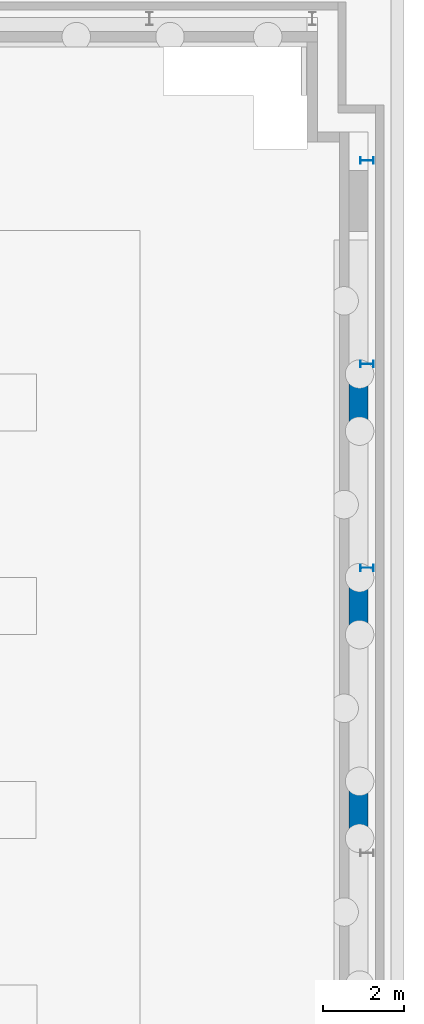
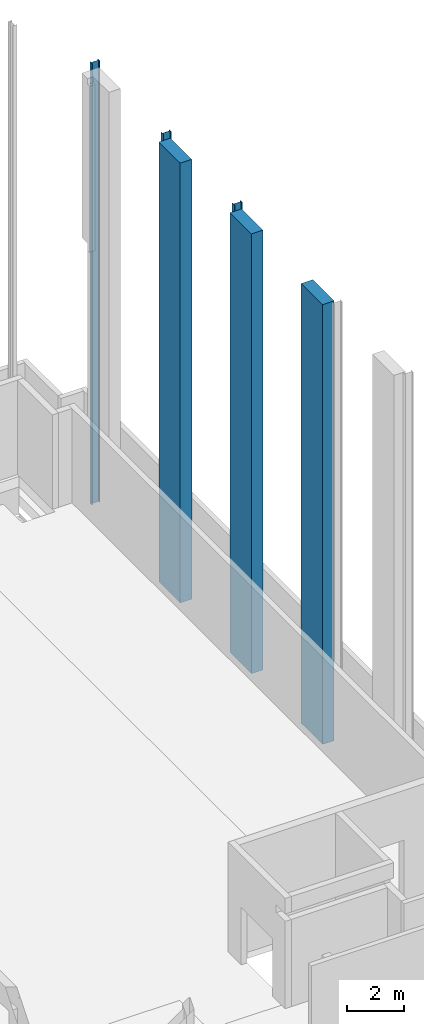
# One storey, part 9 of 34: 6 columns.
"""IFC2X3 building model written with IfcOpenShell, lengths in millimetres."""

import ifcopenshell
import ifcopenshell.guid

model = None  # the IFC model being written
_history = None  # IfcOwnerHistory: only IFC2X3 demands one
_inside = {}  # id of a spatial element -> (the spatial element, [elements in it])
_under = {}  # id of a project, library or spatial element -> (it, [spatial elements below it])
_declared = {}  # id of a project -> (the project, [libraries it declares])
_typed = {}  # id of a type object -> (the type object, [elements of that type])
_made_of = {}  # id of a material, layer set ... -> (it, [elements and type objects made of it])


def new_model(schema):
    """Start an empty IFC model of exactly this schema.

    Asked for "IFC4X3", IfcOpenShell would pick the latest addendum, in which some entities
    have other attributes; the version numbers below select the first issue.
    IFC2X3 requires an IfcOwnerHistory on every rooted entity: one is made here for all.
    """
    global model, _history
    if schema == "IFC4X3":
        model = ifcopenshell.file(schema_version=(4, 3, 0, 0))
    else:
        model = ifcopenshell.file(schema=schema)
    _inside.clear()
    _under.clear()
    _declared.clear()
    _typed.clear()
    _made_of.clear()
    _history = None
    if model.schema == "IFC2X3":
        org = make("IfcOrganization", Name="unknown")
        user = make(
            "IfcPersonAndOrganization",
            ThePerson=make("IfcPerson", FamilyName="unknown"),
            TheOrganization=org,
        )
        app = make(
            "IfcApplication",
            ApplicationDeveloper=org,
            Version="unknown",
            ApplicationFullName="unknown",
            ApplicationIdentifier="unknown",
        )
        _history = make(
            "IfcOwnerHistory",
            OwningUser=user,
            OwningApplication=app,
            ChangeAction="ADDED",
            CreationDate=0,
        )
    return model


def make(cls, **values):
    """One entity of the class cls with the attributes given. An attribute that is None is left unset."""
    return model.create_entity(
        cls, **{name: value for name, value in values.items() if value is not None}
    )


def entity(cls, *values):
    """Any entity or typed value of the class cls, its attributes in the order of the schema. None: left unset."""
    e = model.create_entity(cls)
    for i, value in enumerate(values):
        if value is not None:
            e[i] = value
    return e


def rooted(cls, **values):
    """An entity with a GlobalId (a new one), such as an element, a storey or a relation."""
    return make(cls, GlobalId=ifcopenshell.guid.new(), OwnerHistory=_history, **values)


def si_unit(unit_type, name, prefix=None):
    """IfcSIUnit, for example si_unit("LENGTHUNIT", "METRE", prefix="MILLI")."""
    return make("IfcSIUnit", UnitType=unit_type, Prefix=prefix, Name=name)


def converted_unit(unit_type, name, factor, base, dimensions=None, offset=None):
    """IfcConversionBasedUnit, such as the inch: factor (a typed value) times the base unit."""
    return make(
        "IfcConversionBasedUnit"
        if offset is None
        else "IfcConversionBasedUnitWithOffset",
        ConversionOffset=offset,
        Dimensions=None
        if dimensions is None
        else entity("IfcDimensionalExponents", *dimensions),
        UnitType=unit_type,
        Name=name,
        ConversionFactor=make(
            "IfcMeasureWithUnit", ValueComponent=factor, UnitComponent=base
        ),
    )


def derived_unit(unit_type, elements):
    """IfcDerivedUnit: a product of units, each with its exponent."""
    return make(
        "IfcDerivedUnit",
        Elements=[
            make("IfcDerivedUnitElement", Unit=unit, Exponent=power)
            for unit, power in elements
        ],
        UnitType=unit_type,
    )


def assignment(units):
    """IfcUnitAssignment: the units of a project."""
    return None if units is None else make("IfcUnitAssignment", Units=units)


def point(xyz):
    """IfcCartesianPoint."""
    return None if xyz is None else make("IfcCartesianPoint", Coordinates=xyz)


def direction(xyz):
    """IfcDirection."""
    return None if xyz is None else make("IfcDirection", DirectionRatios=xyz)


def frame(location, z_axis=None, x_axis=None):
    """IfcAxis2Placement3D, a coordinate frame: its origin and axes. An axis left out is left unset."""
    return make(
        "IfcAxis2Placement3D",
        Location=point(location),
        Axis=direction(z_axis),
        RefDirection=direction(x_axis),
    )


def frame_2d(location, x_axis=None):
    """IfcAxis2Placement2D, a coordinate frame in the plane: its origin and x axis."""
    return make(
        "IfcAxis2Placement2D", Location=point(location), RefDirection=direction(x_axis)
    )


def origin():
    """The frame at (0, 0, 0) with its axes left unset."""
    return frame((0.0, 0.0, 0.0))


def place(relative_to, where):
    """IfcLocalPlacement: puts the frame where relative to a parent placement (None: the world)."""
    return make(
        "IfcLocalPlacement", PlacementRelTo=relative_to, RelativePlacement=where
    )


def context(
    kind, dimensions, precision=None, world=None, true_north=None, identifier=None
):
    """IfcGeometricRepresentationContext, for example the 3D "Model" context."""
    return make(
        "IfcGeometricRepresentationContext",
        ContextIdentifier=identifier,
        ContextType=kind,
        CoordinateSpaceDimension=dimensions,
        Precision=precision,
        WorldCoordinateSystem=world,
        TrueNorth=true_north,
    )


def subcontext(parent, identifier, kind, view, scale=None):
    """IfcGeometricRepresentationSubContext, for example "Body" below "Model"."""
    return make(
        "IfcGeometricRepresentationSubContext",
        ContextIdentifier=identifier,
        ContextType=kind,
        ParentContext=parent,
        TargetScale=scale,
        TargetView=view,
    )


def project(units=None, contexts=None):
    """IfcProject with its units and contexts."""
    return rooted(
        "IfcProject",
        Name="project",
        RepresentationContexts=contexts,
        UnitsInContext=assignment(units),
    )


def spatial(cls, under=None, at=None, **own):
    """A site, building, storey or space (cls), placed at a placement, below another one or the project."""
    s = rooted(cls, ObjectPlacement=at, **own)
    if under is not None:
        _under.setdefault(under.id(), (under, []))[1].append(s)
    return s


def profile(cls, at=None, kind="AREA", **sizes):
    """A parametric profile (cls). Its sizes go by their IFC names, for example OverallWidth=200.0."""
    return make(cls, ProfileType=kind, Position=at, **sizes)


def rectangle(**sizes):
    """IfcRectangleProfileDef."""
    return profile("IfcRectangleProfileDef", **sizes)


def i_section(**sizes):
    """IfcIShapeProfileDef."""
    return profile("IfcIShapeProfileDef", **sizes)


def extrude(swept, where, along, depth):
    """IfcExtrudedAreaSolid: the profile swept, set in the frame where, extruded along a direction by depth."""
    return make(
        "IfcExtrudedAreaSolid",
        SweptArea=swept,
        Position=where,
        ExtrudedDirection=direction(along),
        Depth=depth,
    )


def shape(context_of_items, identifier, shape_type, items):
    """IfcShapeRepresentation: the items that make up one representation, for example the "Body"."""
    return make(
        "IfcShapeRepresentation",
        ContextOfItems=context_of_items,
        RepresentationIdentifier=identifier,
        RepresentationType=shape_type,
        Items=items,
    )


def source(mapping_origin, context_of_items, identifier, shape_type, items):
    """IfcRepresentationMap: a shape defined once, which mapped items show again and again."""
    return make(
        "IfcRepresentationMap",
        MappingOrigin=mapping_origin,
        MappedRepresentation=shape(context_of_items, identifier, shape_type, items),
    )


def transform(
    local_origin,
    x_axis=None,
    y_axis=None,
    z_axis=None,
    scale=None,
    scale2=None,
    scale3=None,
    uniform=True,
):
    """IfcCartesianTransformationOperator3D, or its non-uniform kind. x_axis, y_axis, z_axis: its Axis1, 2, 3."""
    if uniform:
        return make(
            "IfcCartesianTransformationOperator3D",
            Axis1=direction(x_axis),
            Axis2=direction(y_axis),
            LocalOrigin=point(local_origin),
            Scale=scale,
            Axis3=direction(z_axis),
        )
    return make(
        "IfcCartesianTransformationOperator3DnonUniform",
        Axis1=direction(x_axis),
        Axis2=direction(y_axis),
        LocalOrigin=point(local_origin),
        Scale=scale,
        Axis3=direction(z_axis),
        Scale2=scale2,
        Scale3=scale3,
    )


def mapped(mapping_source, mapping_target):
    """IfcMappedItem: shows the shape of a source again, moved by a transform."""
    return make(
        "IfcMappedItem", MappingSource=mapping_source, MappingTarget=mapping_target
    )


def material(Name=None, Category=None):
    """IfcMaterial."""
    return make("IfcMaterial", Name=Name, Category=Category)


def made_of(thing, what):
    """Note that an element or type object is made of a material, layer set ...; save() writes the relation."""
    if what is not None:
        _made_of.setdefault(what.id(), (what, []))[1].append(thing)
    return thing


def type_object(cls, material=None, **own):
    """A type object (cls), such as IfcWallType, which elements share."""
    return made_of(rooted(cls, **own), material)


def type_shapes(of_type, sources):
    """Give a type object the sources (RepresentationMaps) that its elements show as mapped items."""
    of_type.RepresentationMaps = sources


def element(
    cls,
    number,
    at=None,
    inside=None,
    cuts=None,
    type_object=None,
    material=None,
    context=None,
    identifier="Body",
    shape_type=None,
    held_by="IfcProductDefinitionShape",
    body=None,
    shapes=None,
    **own,
):
    """One element of the class cls, such as IfcWall. Its Tag is "e" and its number.

    at: its placement. inside: the storey or other place that contains it. cuts: it is an
    opening in that element (IfcRelVoidsElement). A single representation is given by context,
    identifier, shape_type and body (its items); several are given by shapes. held_by: the class
    of the entity that holds the representations. save() writes the other relations.
    """
    e = rooted(cls, Tag="e%d" % number, ObjectPlacement=at, **own)
    if body is not None:
        shapes = [shape(context, identifier, shape_type, body)]
    if shapes is not None:
        e.Representation = make(held_by, Representations=shapes)
    if inside is not None:
        _inside.setdefault(inside.id(), (inside, []))[1].append(e)
    if cuts is not None:
        rooted(
            "IfcRelVoidsElement", RelatingBuildingElement=cuts, RelatedOpeningElement=e
        )
    if type_object is not None:
        _typed.setdefault(type_object.id(), (type_object, []))[1].append(e)
    return made_of(e, material)


def aggregate(whole, parts):
    """IfcRelAggregates: a whole, such as a stair, and the parts it consists of."""
    return rooted("IfcRelAggregates", RelatingObject=whole, RelatedObjects=parts)


def save(model, path):
    """Write the relations noted so far, then the file.

    IfcRelAggregates (storeys below a building ...), IfcRelContainedInSpatialStructure (elements
    in a storey), IfcRelDefinesByType, IfcRelAssociatesMaterial and IfcRelDeclares: one each for
    every whole, place, type object, material and project.
    """
    for whole, parts in _under.values():
        aggregate(whole, parts)
    for where, things in _inside.values():
        rooted(
            "IfcRelContainedInSpatialStructure",
            RelatedElements=things,
            RelatingStructure=where,
        )
    for kind, things in _typed.values():
        rooted("IfcRelDefinesByType", RelatedObjects=things, RelatingType=kind)
    for what, things in _made_of.values():
        rooted("IfcRelAssociatesMaterial", RelatedObjects=things, RelatingMaterial=what)
    for by, libraries in _declared.values():
        rooted("IfcRelDeclares", RelatingContext=by, RelatedDefinitions=libraries)
    model.write(path)


model = new_model("IFC2X3")

# Units and contexts
model_context = context("Model", 3, precision=0.01, world=origin(), true_north=direction((6.12303176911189e-17, 1.0)))
body_context = subcontext(model_context, "Body", "Model", "MODEL_VIEW")
ifc_project = project(units=[si_unit("LENGTHUNIT", "METRE", prefix="MILLI"), si_unit("AREAUNIT", "SQUARE_METRE", prefix="MILLI"), si_unit("VOLUMEUNIT", "CUBIC_METRE"), converted_unit("PLANEANGLEUNIT", "DEGREE", entity("IfcRatioMeasure", 0.0174532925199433), si_unit("PLANEANGLEUNIT", "RADIAN"), dimensions=[0, 0, 0, 0, 0, 0, 0]), si_unit("MASSUNIT", "GRAM", prefix="KILO"), derived_unit("MASSDENSITYUNIT", [(si_unit("MASSUNIT", "GRAM", prefix="KILO"), 1), (si_unit("LENGTHUNIT", "METRE"), -3)]), derived_unit("MOMENTOFINERTIAUNIT", [(si_unit("LENGTHUNIT", "METRE"), 4)]), si_unit("TIMEUNIT", "SECOND"), si_unit("FREQUENCYUNIT", "HERTZ"), si_unit("THERMODYNAMICTEMPERATUREUNIT", "DEGREE_CELSIUS"), derived_unit("THERMALTRANSMITTANCEUNIT", [(si_unit("MASSUNIT", "GRAM", prefix="KILO"), 1), (si_unit("THERMODYNAMICTEMPERATUREUNIT", "KELVIN"), -1), (si_unit("TIMEUNIT", "SECOND"), -3)]), derived_unit("VOLUMETRICFLOWRATEUNIT", [(si_unit("LENGTHUNIT", "METRE"), 3), (si_unit("TIMEUNIT", "SECOND"), -1)]), si_unit("ELECTRICCURRENTUNIT", "AMPERE"), si_unit("ELECTRICVOLTAGEUNIT", "VOLT"), si_unit("POWERUNIT", "WATT"), si_unit("FORCEUNIT", "NEWTON", prefix="KILO"), si_unit("ILLUMINANCEUNIT", "LUX"), si_unit("LUMINOUSFLUXUNIT", "LUMEN"), si_unit("LUMINOUSINTENSITYUNIT", "CANDELA"), derived_unit("USERDEFINED", [(si_unit("MASSUNIT", "GRAM", prefix="KILO"), -1), (si_unit("LENGTHUNIT", "METRE"), -2), (si_unit("TIMEUNIT", "SECOND"), 3), (si_unit("LUMINOUSFLUXUNIT", "LUMEN"), 1)]), derived_unit("LINEARVELOCITYUNIT", [(si_unit("LENGTHUNIT", "METRE"), 1), (si_unit("TIMEUNIT", "SECOND"), -1)]), si_unit("PRESSUREUNIT", "PASCAL"), derived_unit("USERDEFINED", [(si_unit("LENGTHUNIT", "METRE"), -2), (si_unit("MASSUNIT", "GRAM", prefix="KILO"), 1), (si_unit("TIMEUNIT", "SECOND"), -2)]), derived_unit("LINEARFORCEUNIT", [(si_unit("MASSUNIT", "GRAM", prefix="KILO"), 1), (si_unit("LENGTHUNIT", "METRE"), 1), (si_unit("TIMEUNIT", "SECOND"), -2), (si_unit("LENGTHUNIT", "METRE"), -1)]), derived_unit("PLANARFORCEUNIT", [(si_unit("MASSUNIT", "GRAM", prefix="KILO"), 1), (si_unit("LENGTHUNIT", "METRE"), 1), (si_unit("TIMEUNIT", "SECOND"), -2), (si_unit("LENGTHUNIT", "METRE"), -2)])], contexts=[model_context])

# Site, building, storey
site_placement = place(None, origin())
site = spatial("IfcSite", under=ifc_project, at=site_placement, Name="Theater aan de Parade", CompositionType="ELEMENT")
building_placement = place(site_placement, origin())
building = spatial("IfcBuilding", under=site, at=building_placement, Name="Theater aan de Parade", CompositionType="ELEMENT")
storey_placement = place(building_placement, frame((0.0, 0.0, 3.49116848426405e-09)))
storey = spatial("IfcBuildingStorey", under=building, at=storey_placement, Name="00 begane grond", CompositionType="ELEMENT", Elevation=3.49116848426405e-09)

# Columns
ifc_material_1 = material(Name="00_PBT_MAT_beton t.p.g._C40/50")
column_type_1 = type_object("IfcColumnType", Name="28_PBT_SC_beton_rechthoekig:C40/50_1500x700", PredefinedType="COLUMN", material=ifc_material_1)
shared_shape_1 = source(origin(), body_context, "Body", "SweptSolid", [
    extrude(rectangle(XDim=1500.00000000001, YDim=470.000000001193, at=frame_2d((0.0, -3.0320279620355e-10), x_axis=(1.0, 0.0))), frame((87561.0, 39910.0, 880.0), z_axis=(0.0, 0.0, 1.0), x_axis=(0.0, -1.0, 0.0)), (0.0, 0.0, 1.0), 18849.9999999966),
])
type_shapes(column_type_1, [shared_shape_1])
column_1_placement = place(storey_placement, frame((0.0, 0.0, -3.49116848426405e-09)))
element("IfcColumn", 1, at=column_1_placement, inside=storey, type_object=column_type_1, material=ifc_material_1, Name="28_PBT_SC_beton_rechthoekig:C40/50_1500x700", ObjectType="28_PBT_SC_beton_rechthoekig:C40/50_1500x700", context=body_context, shape_type="MappedRepresentation", body=[
    mapped(shared_shape_1, transform((0.0, 0.0, 0.0), scale=1.0)),
])
column_type_2 = type_object("IfcColumnType", Name="28_PBT_SC_beton_rechthoekig:C40/50_1500x700", PredefinedType="COLUMN", material=ifc_material_1)
shared_shape_2 = source(origin(), body_context, "Body", "SweptSolid", [
    extrude(rectangle(XDim=1500.00000000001, YDim=470.000000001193, at=frame_2d((-2.1600499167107e-12, -3.0320279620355e-10), x_axis=(1.0, 0.0))), frame((87561.0, 34910.0, 880.0), z_axis=(0.0, 0.0, 1.0), x_axis=(0.0, -1.0, 0.0)), (0.0, 0.0, 1.0), 18849.9999999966),
])
type_shapes(column_type_2, [shared_shape_2])
column_2_placement = place(storey_placement, frame((0.0, 0.0, -3.49116848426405e-09)))
element("IfcColumn", 2, at=column_2_placement, inside=storey, type_object=column_type_2, material=ifc_material_1, Name="28_PBT_SC_beton_rechthoekig:C40/50_1500x700", ObjectType="28_PBT_SC_beton_rechthoekig:C40/50_1500x700", context=body_context, shape_type="MappedRepresentation", body=[
    mapped(shared_shape_2, transform((0.0, 0.0, 0.0), scale=1.0)),
])
column_type_3 = type_object("IfcColumnType", Name="28_PBT_SC_beton_rechthoekig:C40/50_1500x700", PredefinedType="COLUMN", material=ifc_material_1)
shared_shape_3 = source(origin(), body_context, "Body", "SweptSolid", [
    extrude(rectangle(XDim=1500.00000000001, YDim=470.000000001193, at=frame_2d((-2.1600499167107e-12, -3.0320279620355e-10), x_axis=(1.0, 0.0))), frame((87561.0, 29910.0, 880.0), z_axis=(0.0, 0.0, 1.0), x_axis=(0.0, -1.0, 0.0)), (0.0, 0.0, 1.0), 18849.9999999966),
])
type_shapes(column_type_3, [shared_shape_3])
column_3_placement = place(storey_placement, frame((0.0, 0.0, -3.49116848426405e-09)))
element("IfcColumn", 3, at=column_3_placement, inside=storey, type_object=column_type_3, material=ifc_material_1, Name="28_PBT_SC_beton_rechthoekig:C40/50_1500x700", ObjectType="28_PBT_SC_beton_rechthoekig:C40/50_1500x700", context=body_context, shape_type="MappedRepresentation", body=[
    mapped(shared_shape_3, transform((0.0, 0.0, 0.0), scale=1.0)),
])
ifc_material_2 = material(Name="00_PBT_MAT_staal_S355")
column_type_4 = type_object("IfcColumnType", Name="28_PBT_SC_staal_IPE-profiel:S355_IPE330", PredefinedType="COLUMN", material=ifc_material_2)
shared_shape_4 = source(origin(), body_context, "Body", "SweptSolid", [
    extrude(i_section(OverallWidth=159.999999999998, OverallDepth=329.999999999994, WebThickness=7.5000000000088, FlangeThickness=11.500000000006, FilletRadius=17.999999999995, at=frame_2d((6.50146603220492e-12, 1.73230318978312e-11), x_axis=(1.0, 0.0))), frame((87771.0, 35910.0, 930.0), z_axis=(0.0, 0.0, 1.0), x_axis=(0.0, -1.0, 0.0)), (0.0, 0.0, 1.0), 18919.9999999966),
])
type_shapes(column_type_4, [shared_shape_4])
column_4_placement = place(storey_placement, frame((0.0, 0.0, -3.49116848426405e-09)))
element("IfcColumn", 4, at=column_4_placement, inside=storey, type_object=column_type_4, material=ifc_material_2, Name="28_PBT_SC_staal_IPE-profiel:S355_IPE330", ObjectType="28_PBT_SC_staal_IPE-profiel:S355_IPE330", context=body_context, shape_type="MappedRepresentation", body=[
    mapped(shared_shape_4, transform((0.0, 0.0, 0.0), scale=1.0)),
])
column_type_5 = type_object("IfcColumnType", Name="28_PBT_SC_staal_IPE-profiel:S355_IPE330", PredefinedType="COLUMN", material=ifc_material_2)
shared_shape_5 = source(origin(), body_context, "Body", "SweptSolid", [
    extrude(i_section(OverallWidth=159.999999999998, OverallDepth=329.999999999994, WebThickness=7.4999999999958, FlangeThickness=11.500000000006, FilletRadius=17.9999999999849, at=frame_2d((0.0, 1.73230318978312e-11), x_axis=(1.0, 0.0))), frame((87771.0, 40910.0, 930.0), z_axis=(0.0, 0.0, 1.0), x_axis=(0.0, -1.0, 0.0)), (0.0, 0.0, 1.0), 18919.9999999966),
])
type_shapes(column_type_5, [shared_shape_5])
column_5_placement = place(storey_placement, frame((0.0, 0.0, -3.49116848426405e-09)))
element("IfcColumn", 5, at=column_5_placement, inside=storey, type_object=column_type_5, material=ifc_material_2, Name="28_PBT_SC_staal_IPE-profiel:S355_IPE330", ObjectType="28_PBT_SC_staal_IPE-profiel:S355_IPE330", context=body_context, shape_type="MappedRepresentation", body=[
    mapped(shared_shape_5, transform((0.0, 0.0, 0.0), scale=1.0)),
])
column_type_6 = type_object("IfcColumnType", Name="28_PBT_SC_staal_IPE-profiel:S355_IPE330", PredefinedType="COLUMN", material=ifc_material_2)
shared_shape_6 = source(origin(), body_context, "Body", "SweptSolid", [
    extrude(i_section(OverallWidth=159.999999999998, OverallDepth=329.999999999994, WebThickness=7.4999999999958, FlangeThickness=11.500000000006, FilletRadius=17.9999999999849, at=frame_2d((0.0, 1.73230318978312e-11), x_axis=(1.0, 0.0))), frame((87771.0, 45910.0, 930.0), z_axis=(0.0, 0.0, 1.0), x_axis=(0.0, -1.0, 0.0)), (0.0, 0.0, 1.0), 18919.9999999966),
])
type_shapes(column_type_6, [shared_shape_6])
column_6_placement = place(storey_placement, frame((0.0, 0.0, -3.49116848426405e-09)))
element("IfcColumn", 6, at=column_6_placement, inside=storey, type_object=column_type_6, material=ifc_material_2, Name="28_PBT_SC_staal_IPE-profiel:S355_IPE330", ObjectType="28_PBT_SC_staal_IPE-profiel:S355_IPE330", context=body_context, shape_type="MappedRepresentation", body=[
    mapped(shared_shape_6, transform((0.0, 0.0, 0.0), scale=1.0)),
])

save(model, "model.ifc")
